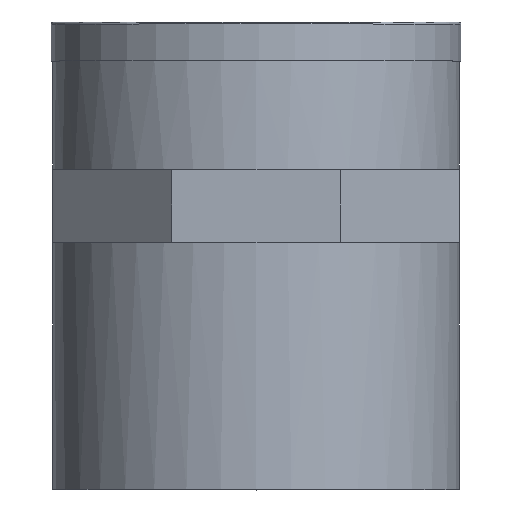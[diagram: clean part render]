
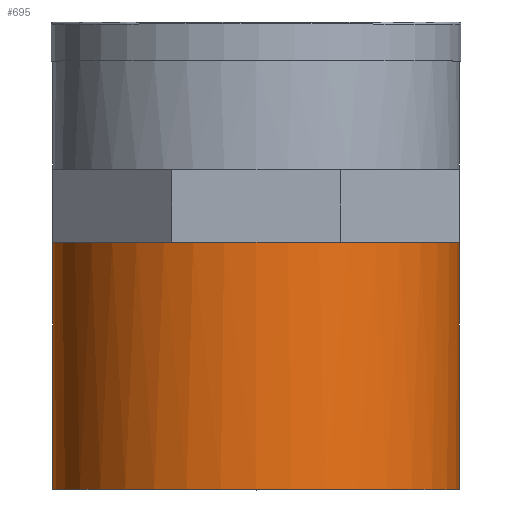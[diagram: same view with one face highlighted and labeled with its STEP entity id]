
A CAD part, top view. The second image highlights one B-rep face of the part: STEP entity #695.
In plain terms, the highlighted cylindrical face has radius 21 mm (diameter 42 mm), a full revolution.
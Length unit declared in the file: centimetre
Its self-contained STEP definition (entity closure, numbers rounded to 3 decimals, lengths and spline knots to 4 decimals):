
#122=CYLINDRICAL_SURFACE('',#767,2.1);
#135=FACE_BOUND('',#234,.T.);
#178=FACE_OUTER_BOUND('',#233,.T.);
#233=EDGE_LOOP('',(#560,#561,#562,#563,#564,#565,#566,#567));
#234=EDGE_LOOP('',(#568));
#247=CIRCLE('',#719,2.1);
#248=CIRCLE('',#721,2.1);
#249=CIRCLE('',#723,2.1);
#250=CIRCLE('',#725,2.1);
#251=CIRCLE('',#727,2.1);
#252=CIRCLE('',#729,2.1);
#253=CIRCLE('',#731,2.1);
#254=CIRCLE('',#733,2.1);
#268=CIRCLE('',#766,2.1);
#287=VERTEX_POINT('',#4036);
#293=VERTEX_POINT('',#4049);
#297=VERTEX_POINT('',#4059);
#300=VERTEX_POINT('',#4068);
#301=VERTEX_POINT('',#4069);
#303=VERTEX_POINT('',#4075);
#305=VERTEX_POINT('',#4081);
#307=VERTEX_POINT('',#4087);
#322=VERTEX_POINT('',#4161);
#362=EDGE_CURVE('',#300,#301,#247,.T.);
#365=EDGE_CURVE('',#303,#300,#248,.T.);
#368=EDGE_CURVE('',#305,#303,#249,.T.);
#371=EDGE_CURVE('',#307,#305,#250,.T.);
#374=EDGE_CURVE('',#287,#307,#251,.T.);
#376=EDGE_CURVE('',#293,#287,#252,.T.);
#377=EDGE_CURVE('',#297,#293,#253,.T.);
#378=EDGE_CURVE('',#301,#297,#254,.T.);
#407=EDGE_CURVE('',#322,#322,#268,.T.);
#560=ORIENTED_EDGE('',*,*,#362,.T.);
#561=ORIENTED_EDGE('',*,*,#378,.T.);
#562=ORIENTED_EDGE('',*,*,#377,.T.);
#563=ORIENTED_EDGE('',*,*,#376,.T.);
#564=ORIENTED_EDGE('',*,*,#374,.T.);
#565=ORIENTED_EDGE('',*,*,#371,.T.);
#566=ORIENTED_EDGE('',*,*,#368,.T.);
#567=ORIENTED_EDGE('',*,*,#365,.T.);
#568=ORIENTED_EDGE('',*,*,#407,.T.);
#695=ADVANCED_FACE('',(#178,#135),#122,.T.);
#719=AXIS2_PLACEMENT_3D('',#4070,#829,#830);
#721=AXIS2_PLACEMENT_3D('',#4076,#835,#836);
#723=AXIS2_PLACEMENT_3D('',#4082,#841,#842);
#725=AXIS2_PLACEMENT_3D('',#4088,#847,#848);
#727=AXIS2_PLACEMENT_3D('',#4093,#853,#854);
#729=AXIS2_PLACEMENT_3D('',#4096,#858,#859);
#731=AXIS2_PLACEMENT_3D('',#4098,#862,#863);
#733=AXIS2_PLACEMENT_3D('',#4100,#866,#867);
#766=AXIS2_PLACEMENT_3D('',#4162,#947,#948);
#767=AXIS2_PLACEMENT_3D('',#4163,#949,#950);
#829=DIRECTION('center_axis',(0.,-1.,0.));
#830=DIRECTION('ref_axis',(-1.,0.,0.));
#835=DIRECTION('center_axis',(0.,-1.,0.));
#836=DIRECTION('ref_axis',(-1.,0.,0.));
#841=DIRECTION('center_axis',(0.,-1.,0.));
#842=DIRECTION('ref_axis',(-1.,0.,0.));
#847=DIRECTION('center_axis',(0.,-1.,0.));
#848=DIRECTION('ref_axis',(-1.,0.,0.));
#853=DIRECTION('center_axis',(0.,-1.,0.));
#854=DIRECTION('ref_axis',(-1.,0.,0.));
#858=DIRECTION('center_axis',(0.,-1.,0.));
#859=DIRECTION('ref_axis',(-1.,0.,0.));
#862=DIRECTION('center_axis',(0.,-1.,0.));
#863=DIRECTION('ref_axis',(-1.,0.,0.));
#866=DIRECTION('center_axis',(0.,-1.,0.));
#867=DIRECTION('ref_axis',(-1.,0.,0.));
#947=DIRECTION('center_axis',(0.,1.,0.));
#948=DIRECTION('ref_axis',(1.,0.,0.));
#949=DIRECTION('center_axis',(0.,1.,0.));
#950=DIRECTION('ref_axis',(-1.,0.,0.));
#4036=CARTESIAN_POINT('',(1.4849,-2.8297,1.4849));
#4049=CARTESIAN_POINT('',(2.1,-2.8297,0.));
#4059=CARTESIAN_POINT('',(1.4849,-2.8297,-1.4849));
#4068=CARTESIAN_POINT('',(-1.4849,-2.8297,-1.4849));
#4069=CARTESIAN_POINT('',(0.,-2.8297,-2.1));
#4070=CARTESIAN_POINT('Origin',(0.,-2.8297,0.));
#4075=CARTESIAN_POINT('',(-2.1,-2.8297,0.));
#4076=CARTESIAN_POINT('Origin',(0.,-2.8297,0.));
#4081=CARTESIAN_POINT('',(-1.4849,-2.8297,1.4849));
#4082=CARTESIAN_POINT('Origin',(0.,-2.8297,0.));
#4087=CARTESIAN_POINT('',(0.,-2.8297,2.1));
#4088=CARTESIAN_POINT('Origin',(0.,-2.8297,0.));
#4093=CARTESIAN_POINT('Origin',(0.,-2.8297,0.));
#4096=CARTESIAN_POINT('Origin',(0.,-2.8297,0.));
#4098=CARTESIAN_POINT('Origin',(0.,-2.8297,0.));
#4100=CARTESIAN_POINT('Origin',(0.,-2.8297,0.));
#4161=CARTESIAN_POINT('',(-2.1,-5.3797,0.));
#4162=CARTESIAN_POINT('Origin',(0.,-5.3797,0.));
#4163=CARTESIAN_POINT('Origin',(0.,-2.9797,0.));
